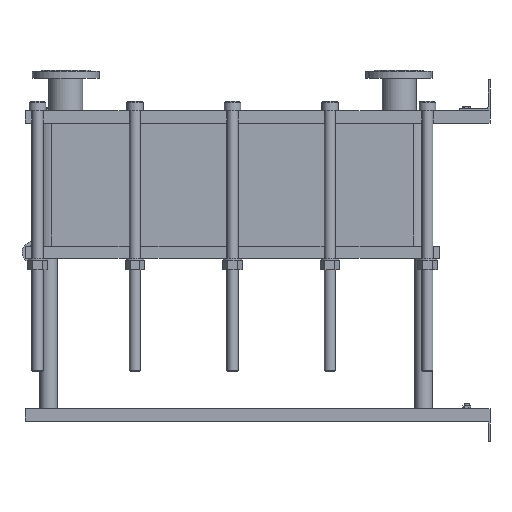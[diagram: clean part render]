
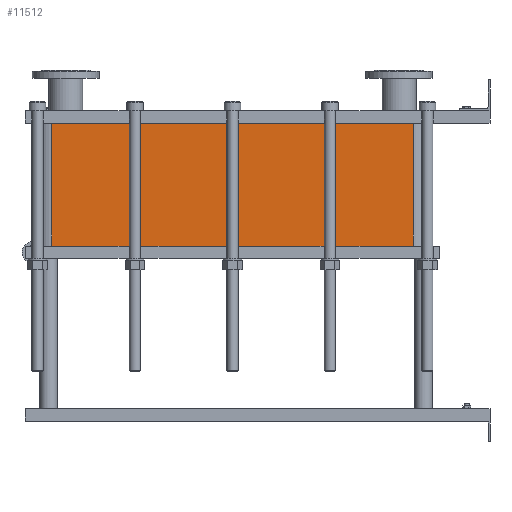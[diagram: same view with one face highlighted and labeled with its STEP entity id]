
A CAD part, left-side view. The second image highlights one B-rep face of the part: STEP entity #11512.
In plain terms, the highlighted planar face has unit normal (-1, 0, 0).
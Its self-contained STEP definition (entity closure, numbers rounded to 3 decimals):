
#1129=LINE('',#23232,#2102);
#1130=LINE('',#23236,#2103);
#1131=LINE('',#23238,#2104);
#1132=LINE('',#23239,#2105);
#2102=VECTOR('',#15887,10.);
#2103=VECTOR('',#15892,10.);
#2104=VECTOR('',#15893,10.);
#2105=VECTOR('',#15894,10.);
#3267=FACE_OUTER_BOUND('',#4093,.T.);
#4093=EDGE_LOOP('',(#10103,#10104,#10105,#10106));
#5642=VERTEX_POINT('',#23229);
#5643=VERTEX_POINT('',#23231);
#5644=VERTEX_POINT('',#23235);
#5645=VERTEX_POINT('',#23237);
#7159=EDGE_CURVE('',#5643,#5642,#1129,.T.);
#7161=EDGE_CURVE('',#5642,#5644,#1130,.T.);
#7162=EDGE_CURVE('',#5645,#5644,#1131,.T.);
#7163=EDGE_CURVE('',#5645,#5643,#1132,.T.);
#10103=ORIENTED_EDGE('',*,*,#7161,.T.);
#10104=ORIENTED_EDGE('',*,*,#7162,.F.);
#10105=ORIENTED_EDGE('',*,*,#7163,.T.);
#10106=ORIENTED_EDGE('',*,*,#7159,.T.);
#10857=PLANE('',#12751);
#11512=ADVANCED_FACE('',(#3267),#10857,.T.);
#12751=AXIS2_PLACEMENT_3D('',#23234,#15890,#15891);
#15887=DIRECTION('',(0.,0.,-1.));
#15890=DIRECTION('center_axis',(-1.,0.,0.));
#15891=DIRECTION('ref_axis',(0.,1.,0.));
#15892=DIRECTION('',(0.,-1.,0.));
#15893=DIRECTION('',(0.,0.,-1.));
#15894=DIRECTION('',(0.,1.,0.));
#23229=CARTESIAN_POINT('',(-200.,1414.,-396.75));
#23231=CARTESIAN_POINT('',(-200.,1414.,0.));
#23232=CARTESIAN_POINT('',(-200.,1414.,0.));
#23234=CARTESIAN_POINT('Origin',(-200.,248.,0.));
#23235=CARTESIAN_POINT('',(-200.,248.,-396.75));
#23236=CARTESIAN_POINT('',(-200.,539.5,-396.75));
#23237=CARTESIAN_POINT('',(-200.,248.,0.));
#23238=CARTESIAN_POINT('',(-200.,248.,0.));
#23239=CARTESIAN_POINT('',(-200.,248.,0.));
